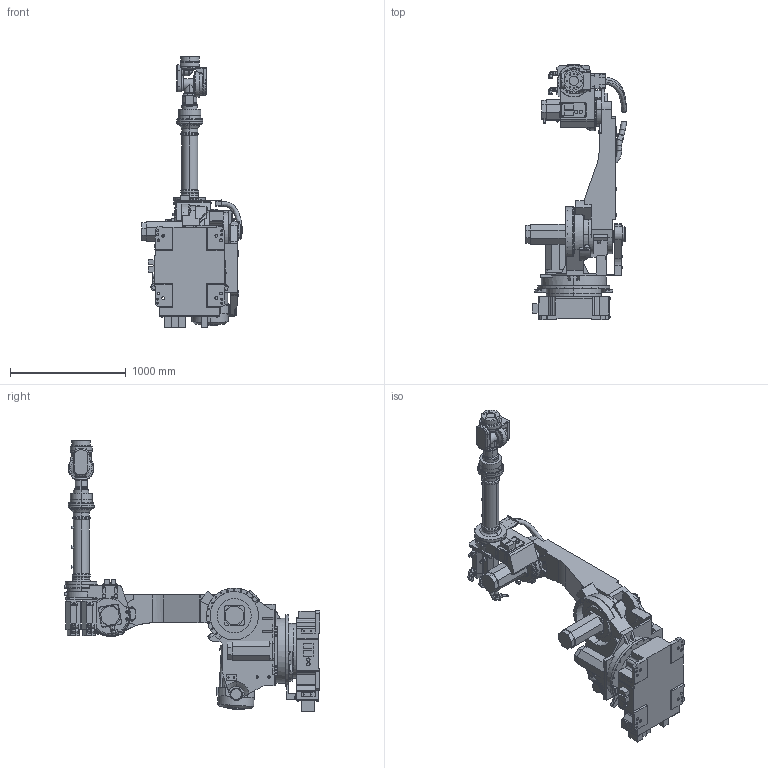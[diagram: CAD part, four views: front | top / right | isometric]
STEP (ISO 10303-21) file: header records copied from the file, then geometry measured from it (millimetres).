
FILE_DESCRIPTION (( 'STEP AP214' ), '1' );
FILE_NAME ('FANUC-430 Robot.STEP', '2011-08-23T21:09:24', ( 'SUNMAD' ), ( '' ), 'SwSTEP 2.0', 'SolidWorks 2011', '' );
FILE_SCHEMA (( 'AUTOMOTIVE_DESIGN' ));
Length unit declared in the file: millimetre
Products named in the file (20): 430-j5; 430-j6; 430-j4; 430-j3; 430_j3-10; 430_j3-9; 430_j3-8; 430_j3-7; 430_j3-6; 430_j3-5; 430_j3-4; 430_j3-3; 430_j3-2; 430_j3-1; 430-balancer; 430-j2-2; 430-j1-hardstop; 430-j1; 430-base; FANUC-430 Robot
Assembly tree (20 placements, depth 3):
  FANUC-430 Robot
    430-j5
    430-j6
    430-j1
    430-j3
      430_j3-1
      430_j3-7
      430_j3-6
      430_j3-4
      430_j3-8
      430_j3-5
      430_j3-3
      430_j3-9
      430_j3-2
      430_j3-10
    430-j1-hardstop  x2
    430-j2-2
    430-balancer
    430-j4
    430-base
Bounding box: 871.16 x 2211 x 2343.25 mm (x, y, z)
Volume: 265535810.9 mm3; surface area: 10929262.7 mm2
Topology: 17 solids, 27 shells, 2374 faces, 6006 edges, 3895 vertices
Faces by surface type: cylinder 1051, plane 714, bspline 568, cone 41
Entity records: 107961 total; most frequent: CARTESIAN_POINT 37977, ORIENTED_EDGE 11594, DIRECTION 9530, EDGE_CURVE 5815, VERTEX_POINT 3793, AXIS2_PLACEMENT_3D 3291, VECTOR 2948, LINE 2948
